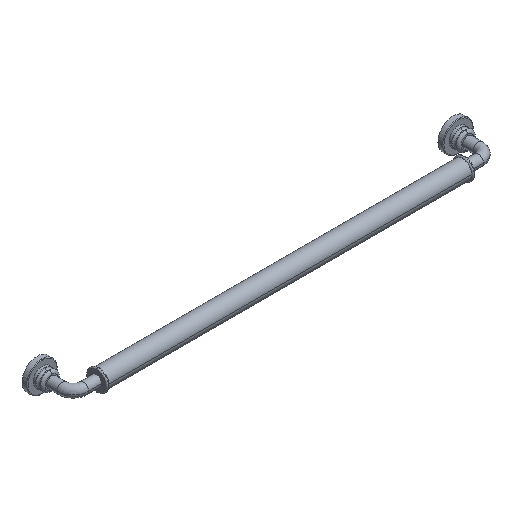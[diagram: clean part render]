
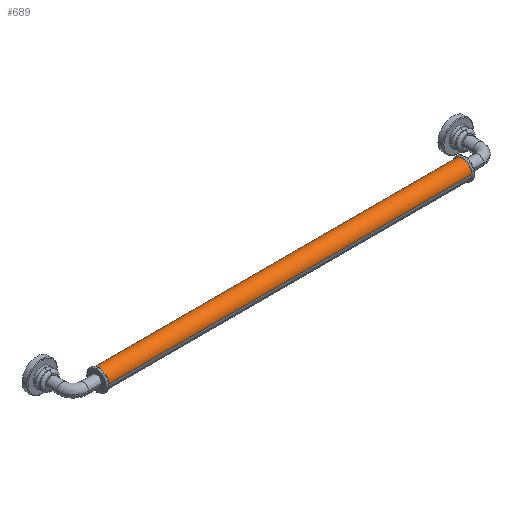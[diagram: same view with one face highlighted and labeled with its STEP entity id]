
A CAD part, isometric view. The second image highlights one B-rep face of the part: STEP entity #689.
In plain terms, the highlighted cylindrical face has radius 7 mm (diameter 14 mm), a partial arc.
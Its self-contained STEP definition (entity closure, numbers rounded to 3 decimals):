
#621 = VERTEX_POINT( '', #1580 );
#651 = EDGE_CURVE( '', #679, #1369, #1612, .T. );
#679 = VERTEX_POINT( '', #1642 );
#689 = ADVANCED_FACE( '', ( #1653 ), #1654, .T. );
#839 = EDGE_CURVE( '', #1043, #679, #1820, .T. );
#1043 = VERTEX_POINT( '', #2058 );
#1241 = EDGE_CURVE( '', #1369, #621, #2270, .T. );
#1301 = EDGE_CURVE( '', #1043, #621, #2335, .T. );
#1369 = VERTEX_POINT( '', #2410 );
#1580 = CARTESIAN_POINT( '', ( 20., -20., 0. ) );
#1612 = CIRCLE( '', #2700, 7. );
#1642 = CARTESIAN_POINT( '', ( 295., -34., 0. ) );
#1653 = FACE_OUTER_BOUND( '', #2750, .T. );
#1654 = CYLINDRICAL_SURFACE( '', #2751, 7. );
#1820 = LINE( '', #2959, #2960 );
#2058 = CARTESIAN_POINT( '', ( 20., -34., 0. ) );
#2270 = LINE( '', #3578, #3579 );
#2335 = CIRCLE( '', #3667, 7. );
#2410 = CARTESIAN_POINT( '', ( 295., -20., 0. ) );
#2700 = AXIS2_PLACEMENT_3D( '', #4077, #4078, #4079 );
#2750 = EDGE_LOOP( '', ( #4128, #4129, #4130, #4131 ) );
#2751 = AXIS2_PLACEMENT_3D( '', #4132, #4133, #4134 );
#2959 = CARTESIAN_POINT( '', ( 157.5, -34., 0. ) );
#2960 = VECTOR( '', #4369, 1. );
#3578 = CARTESIAN_POINT( '', ( 157.5, -20., 0. ) );
#3579 = VECTOR( '', #5018, 1. );
#3667 = AXIS2_PLACEMENT_3D( '', #5092, #5093, #5094 );
#4077 = CARTESIAN_POINT( '', ( 295., -27., 0. ) );
#4078 = DIRECTION( '', ( -1., 0., 0. ) );
#4079 = DIRECTION( '', ( 0., 1., 0. ) );
#4128 = ORIENTED_EDGE( '', *, *, #1241, .T. );
#4129 = ORIENTED_EDGE( '', *, *, #1301, .F. );
#4130 = ORIENTED_EDGE( '', *, *, #839, .T. );
#4131 = ORIENTED_EDGE( '', *, *, #651, .T. );
#4132 = CARTESIAN_POINT( '', ( 157.5, -27., 0. ) );
#4133 = DIRECTION( '', ( 1., 0., 0. ) );
#4134 = DIRECTION( '', ( 0., 1., 0. ) );
#4369 = DIRECTION( '', ( 1., 0., 0. ) );
#5018 = DIRECTION( '', ( -1., 0., 0. ) );
#5092 = CARTESIAN_POINT( '', ( 20., -27., 0. ) );
#5093 = DIRECTION( '', ( -1., 0., 0. ) );
#5094 = DIRECTION( '', ( 0., 1., 0. ) );
